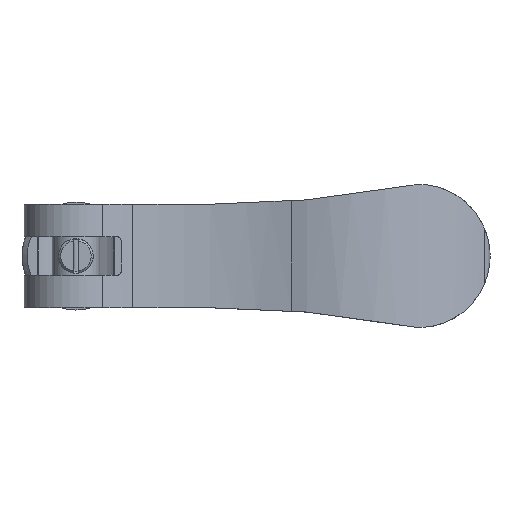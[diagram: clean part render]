
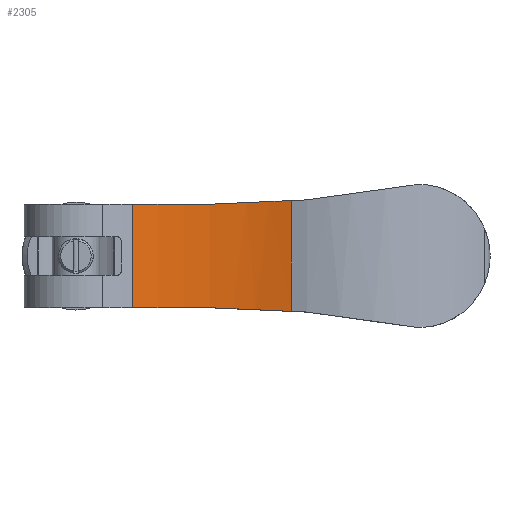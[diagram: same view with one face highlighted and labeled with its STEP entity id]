
A CAD part, top view. The second image highlights one B-rep face of the part: STEP entity #2305.
In plain terms, the highlighted cylindrical face has radius 74.88 mm (diameter 149.76 mm), a partial arc.
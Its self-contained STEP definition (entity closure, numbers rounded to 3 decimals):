
#8 = CARTESIAN_POINT ( 'NONE',  ( 31.14, 3.71, 12. ) ) ;
#28 = FACE_OUTER_BOUND ( 'NONE', #846, .T. ) ;
#75 = CARTESIAN_POINT ( 'NONE',  ( 31.14, 78.59, -12. ) ) ;
#142 = EDGE_CURVE ( 'NONE', #1427, #3001, #3153, .T. ) ;
#171 = ORIENTED_EDGE ( 'NONE', *, *, #2230, .F. ) ;
#176 = VERTEX_POINT ( 'NONE', #3087 ) ;
#283 = CARTESIAN_POINT ( 'NONE',  ( 31.14, 3.71, -12. ) ) ;
#295 = ORIENTED_EDGE ( 'NONE', *, *, #142, .F. ) ;
#457 = DIRECTION ( 'NONE',  ( 0., 0., -1. ) ) ;
#470 = ORIENTED_EDGE ( 'NONE', *, *, #1810, .T. ) ;
#533 = DIRECTION ( 'NONE',  ( -1., 0., 0. ) ) ;
#552 = CARTESIAN_POINT ( 'NONE',  ( 49.889, 6.095, -12.839 ) ) ;
#714 = VECTOR ( 'NONE', #2200, 1000. ) ;
#778 = CARTESIAN_POINT ( 'NONE',  ( 37.474, 3.71, -12.283 ) ) ;
#779 = EDGE_CURVE ( 'NONE', #3001, #176, #3176, .T. ) ;
#846 = EDGE_LOOP ( 'NONE', ( #1044, #2258, #295, #171, #470, #1535 ) ) ;
#847 = CARTESIAN_POINT ( 'NONE',  ( 31.14, 78.59, 12. ) ) ;
#974 = CARTESIAN_POINT ( 'NONE',  ( 13.083, 5.92, 16.6 ) ) ;
#1044 = ORIENTED_EDGE ( 'NONE', *, *, #2148, .F. ) ;
#1105 = DIRECTION ( 'NONE',  ( 0., 0., -1. ) ) ;
#1236 =( BOUNDED_CURVE ( )  B_SPLINE_CURVE ( 3, ( #1783, #2055, #1800, #2268 ),
 .UNSPECIFIED., .F., .T. ) 
 B_SPLINE_CURVE_WITH_KNOTS ( ( 4, 4 ),
 ( 4.459, 4.712 ),
 .UNSPECIFIED. ) 
 CURVE ( )  GEOMETRIC_REPRESENTATION_ITEM ( )  RATIONAL_B_SPLINE_CURVE ( ( 1., 0.995, 0.995, 1. ) ) 
 REPRESENTATION_ITEM ( '' )  );
#1275 = VERTEX_POINT ( 'NONE', #1493 ) ;
#1318 = CARTESIAN_POINT ( 'NONE',  ( 13.083, 5.92, 12. ) ) ;
#1420 = CARTESIAN_POINT ( 'NONE',  ( 31.14, 3.71, -12. ) ) ;
#1427 = VERTEX_POINT ( 'NONE', #8 ) ;
#1493 = CARTESIAN_POINT ( 'NONE',  ( 49.889, 6.095, -12.839 ) ) ;
#1535 = ORIENTED_EDGE ( 'NONE', *, *, #2987, .F. ) ;
#1564 = VECTOR ( 'NONE', #457, 1000. ) ;
#1596 = DIRECTION ( 'NONE',  ( -1., 0., 0. ) ) ;
#1754 = CARTESIAN_POINT ( 'NONE',  ( 43.757, 4.509, -12.564 ) ) ;
#1783 = CARTESIAN_POINT ( 'NONE',  ( 49.889, 6.095, 12.839 ) ) ;
#1800 = CARTESIAN_POINT ( 'NONE',  ( 37.474, 3.71, 12.283 ) ) ;
#1810 = EDGE_CURVE ( 'NONE', #2912, #1275, #1938, .T. ) ;
#1904 = AXIS2_PLACEMENT_3D ( 'NONE', #847, #1105, #1596 ) ;
#1938 = LINE ( 'NONE', #2688, #1564 ) ;
#2009 = CYLINDRICAL_SURFACE ( 'NONE', #3010, 74.88 ) ;
#2022 = DIRECTION ( 'NONE',  ( 1., 0., 0. ) ) ;
#2023 = AXIS2_PLACEMENT_3D ( 'NONE', #75, #3035, #2022 ) ;
#2040 = DIRECTION ( 'NONE',  ( 0., 0., -1. ) ) ;
#2055 = CARTESIAN_POINT ( 'NONE',  ( 43.757, 4.509, 12.564 ) ) ;
#2148 = EDGE_CURVE ( 'NONE', #176, #2533, #3058, .T. ) ;
#2200 = DIRECTION ( 'NONE',  ( 0., 0., -1. ) ) ;
#2230 = EDGE_CURVE ( 'NONE', #2912, #1427, #1236, .T. ) ;
#2258 = ORIENTED_EDGE ( 'NONE', *, *, #779, .F. ) ;
#2268 = CARTESIAN_POINT ( 'NONE',  ( 31.14, 3.71, 12. ) ) ;
#2305 = ADVANCED_FACE ( 'NONE', ( #28 ), #2009, .F. ) ;
#2533 = VERTEX_POINT ( 'NONE', #1420 ) ;
#2688 = CARTESIAN_POINT ( 'NONE',  ( 49.889, 6.095, 16.6 ) ) ;
#2798 =( BOUNDED_CURVE ( )  B_SPLINE_CURVE ( 3, ( #283, #778, #1754, #552 ),
 .UNSPECIFIED., .F., .F. ) 
 B_SPLINE_CURVE_WITH_KNOTS ( ( 4, 4 ),
 ( 4.712, 4.965 ),
 .UNSPECIFIED. ) 
 CURVE ( )  GEOMETRIC_REPRESENTATION_ITEM ( )  RATIONAL_B_SPLINE_CURVE ( ( 1., 0.995, 0.995, 1. ) ) 
 REPRESENTATION_ITEM ( '' )  );
#2912 = VERTEX_POINT ( 'NONE', #3188 ) ;
#2987 = EDGE_CURVE ( 'NONE', #2533, #1275, #2798, .T. ) ;
#3001 = VERTEX_POINT ( 'NONE', #1318 ) ;
#3010 = AXIS2_PLACEMENT_3D ( 'NONE', #3063, #2040, #533 ) ;
#3035 = DIRECTION ( 'NONE',  ( 0., 0., 1. ) ) ;
#3058 = CIRCLE ( 'NONE', #2023, 74.88 ) ;
#3063 = CARTESIAN_POINT ( 'NONE',  ( 31.14, 78.59, 16.6 ) ) ;
#3087 = CARTESIAN_POINT ( 'NONE',  ( 13.083, 5.92, -12. ) ) ;
#3153 = CIRCLE ( 'NONE', #1904, 74.88 ) ;
#3176 = LINE ( 'NONE', #974, #714 ) ;
#3188 = CARTESIAN_POINT ( 'NONE',  ( 49.889, 6.095, 12.839 ) ) ;
